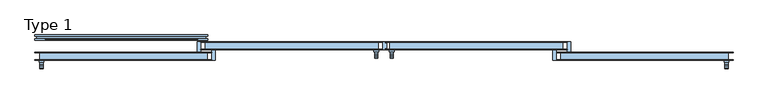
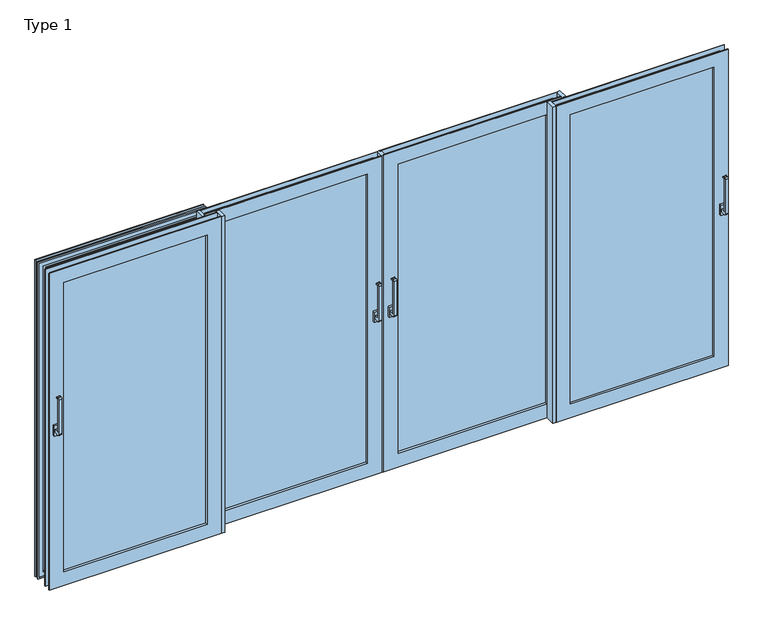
"""IFC4 building model written with IfcOpenShell, lengths in millimetres: window geometry, ETEM_E50_Quadruple_Fly Screen_Lift_Sliding_FR : Type 1."""

from ifc_helpers import new_model, si_unit, point, frame, frame_2d, origin, place, context, project, spatial, polyline, circle_curve, ellipse_curve, trimmed, segment, composite_curve, outline, extrude, faceted_brep, source, transform, mapped, element, save
from ifc_brep_helpers import plane_surface, cylinder_surface, revolved_surface, advanced_brep


def type_1_6a38bbea(model_context):
    return source(origin(), model_context, "Body", "SolidModel", [
        extrude(outline(composite_curve([segment(polyline([(-70.6518056, 1090.0), (-102.2254904, 1090.0)]), True, "CONTINUOUS"), segment(trimmed(circle_curve(frame_2d((-102.2254904, 1098.4263152)), 8.4263152), [point((-102.2254904, 1090.0))], [point((-110.6518056, 1098.4263152))], False, "CARTESIAN"), True, "CONTINUOUS"), segment(polyline([(-110.6518056, 1098.4263152), (-110.6518056, 1331.5736848)]), True, "CONTINUOUS"), segment(trimmed(circle_curve(frame_2d((-102.2254904, 1331.5736848)), 8.4263152), [point((-110.6518056, 1331.5736848))], [point((-102.2254904, 1340.0))], False, "CARTESIAN"), True, "CONTINUOUS"), segment(polyline([(-102.2254904, 1340.0), (-90.6518056, 1340.0)]), True, "CONTINUOUS"), segment(trimmed(circle_curve(frame_2d((-90.6518056, 1335.0)), 5.0), [point((-90.6518056, 1340.0))], [point((-90.6518056, 1330.0))], False, "CARTESIAN"), True, "CONTINUOUS"), segment(polyline([(-90.6518056, 1330.0), (-97.1162717, 1330.0)]), True, "CONTINUOUS"), segment(trimmed(circle_curve(frame_2d((-97.1162717, 1326.4644661)), 3.5355339), [point((-97.1162717, 1330.0))], [point((-100.6518056, 1326.4644661))], True, "CARTESIAN"), True, "CONTINUOUS"), segment(polyline([(-100.6518056, 1326.4644661), (-100.6518056, 1113.5355339)]), True, "CONTINUOUS"), segment(trimmed(circle_curve(frame_2d((-97.1162717, 1113.5355339)), 3.5355339), [point((-100.6518056, 1113.5355339))], [point((-97.1162717, 1110.0))], True, "CARTESIAN"), True, "CONTINUOUS"), segment(polyline([(-97.1162717, 1110.0), (-70.6518056, 1110.0), (-70.6518056, 1090.0)]), True, "CONTINUOUS")], self_intersect=False)), frame((2109.999965, 0.0, 0.0), z_axis=(1.0, 0.0, 0.0), x_axis=(0.0, 1.0, 0.0)), (0.0, 0.0, 1.0), 20.0),
        extrude(outline(polyline([(2104.999965, -70.6518056), (2104.999965, -57.6518056), (2134.999965, -57.6518056), (2134.999965, -70.6518056), (2104.999965, -70.6518056)])), frame((0.0, 0.0, 1065.0), z_axis=(0.0, 0.0, 1.0), x_axis=(1.0, 0.0, 0.0)), (0.0, 0.0, 1.0), 70.0),
        extrude(outline(composite_curve([segment(polyline([(-70.6518056, 1090.0), (-102.2254904, 1090.0)]), True, "CONTINUOUS"), segment(trimmed(circle_curve(frame_2d((-102.2254904, 1098.4263152)), 8.4263152), [point((-102.2254904, 1090.0))], [point((-110.6518056, 1098.4263152))], False, "CARTESIAN"), True, "CONTINUOUS"), segment(polyline([(-110.6518056, 1098.4263152), (-110.6518056, 1331.5736848)]), True, "CONTINUOUS"), segment(trimmed(circle_curve(frame_2d((-102.2254904, 1331.5736848)), 8.4263152), [point((-110.6518056, 1331.5736848))], [point((-102.2254904, 1340.0))], False, "CARTESIAN"), True, "CONTINUOUS"), segment(polyline([(-102.2254904, 1340.0), (-90.6518056, 1340.0)]), True, "CONTINUOUS"), segment(trimmed(circle_curve(frame_2d((-90.6518056, 1335.0)), 5.0), [point((-90.6518056, 1340.0))], [point((-90.6518056, 1330.0))], False, "CARTESIAN"), True, "CONTINUOUS"), segment(polyline([(-90.6518056, 1330.0), (-97.1162717, 1330.0)]), True, "CONTINUOUS"), segment(trimmed(circle_curve(frame_2d((-97.1162717, 1326.4644661)), 3.5355339), [point((-97.1162717, 1330.0))], [point((-100.6518056, 1326.4644661))], True, "CARTESIAN"), True, "CONTINUOUS"), segment(polyline([(-100.6518056, 1326.4644661), (-100.6518056, 1113.5355339)]), True, "CONTINUOUS"), segment(trimmed(circle_curve(frame_2d((-97.1162717, 1113.5355339)), 3.5355339), [point((-100.6518056, 1113.5355339))], [point((-97.1162717, 1110.0))], True, "CARTESIAN"), True, "CONTINUOUS"), segment(polyline([(-97.1162717, 1110.0), (-70.6518056, 1110.0), (-70.6518056, 1090.0)]), True, "CONTINUOUS")], self_intersect=False)), frame((-2129.999965, 0.0, 0.0), z_axis=(1.0, 0.0, 0.0), x_axis=(0.0, 1.0, 0.0)), (0.0, 0.0, 1.0), 20.0),
        extrude(outline(polyline([(-2134.999965, -70.6518056), (-2134.999965, -57.6518056), (-2104.999965, -57.6518056), (-2104.999965, -70.6518056), (-2134.999965, -70.6518056)])), frame((0.0, 0.0, 1065.0), z_axis=(0.0, 0.0, 1.0), x_axis=(1.0, 0.0, 0.0)), (0.0, 0.0, 1.0), 70.0),
        extrude(outline(composite_curve([segment(polyline([(-5.6518056, 1090.0), (-37.2254904, 1090.0)]), True, "CONTINUOUS"), segment(trimmed(circle_curve(frame_2d((-37.2254904, 1098.4263152)), 8.4263152), [point((-37.2254904, 1090.0))], [point((-45.6518056, 1098.4263152))], False, "CARTESIAN"), True, "CONTINUOUS"), segment(polyline([(-45.6518056, 1098.4263152), (-45.6518056, 1331.5736848)]), True, "CONTINUOUS"), segment(trimmed(circle_curve(frame_2d((-37.2254904, 1331.5736848)), 8.4263152), [point((-45.6518056, 1331.5736848))], [point((-37.2254904, 1340.0))], False, "CARTESIAN"), True, "CONTINUOUS"), segment(polyline([(-37.2254904, 1340.0), (-25.6518056, 1340.0)]), True, "CONTINUOUS"), segment(trimmed(circle_curve(frame_2d((-25.6518056, 1335.0)), 5.0), [point((-25.6518056, 1340.0))], [point((-25.6518056, 1330.0))], False, "CARTESIAN"), True, "CONTINUOUS"), segment(polyline([(-25.6518056, 1330.0), (-32.1162717, 1330.0)]), True, "CONTINUOUS"), segment(trimmed(circle_curve(frame_2d((-32.1162717, 1326.4644661)), 3.5355339), [point((-32.1162717, 1330.0))], [point((-35.6518056, 1326.4644661))], True, "CARTESIAN"), True, "CONTINUOUS"), segment(polyline([(-35.6518056, 1326.4644661), (-35.6518056, 1113.5355339)]), True, "CONTINUOUS"), segment(trimmed(circle_curve(frame_2d((-32.1162717, 1113.5355339)), 3.5355339), [point((-35.6518056, 1113.5355339))], [point((-32.1162717, 1110.0))], True, "CARTESIAN"), True, "CONTINUOUS"), segment(polyline([(-32.1162717, 1110.0), (-5.6518056, 1110.0), (-5.6518056, 1090.0)]), True, "CONTINUOUS")], self_intersect=False)), frame((-57.5, 0.0, 0.0), z_axis=(1.0, 0.0, 0.0), x_axis=(0.0, 1.0, 0.0)), (0.0, 0.0, 1.0), 20.0),
        extrude(outline(polyline([(-62.5, -5.6518056), (-62.5, 7.3481944), (-32.5, 7.3481944), (-32.5, -5.6518056), (-62.5, -5.6518056)])), frame((0.0, 0.0, 1065.0), z_axis=(0.0, 0.0, 1.0), x_axis=(1.0, 0.0, 0.0)), (0.0, 0.0, 1.0), 70.0),
        extrude(outline(composite_curve([segment(polyline([(-5.6518056, 1090.0), (-37.2254904, 1090.0)]), True, "CONTINUOUS"), segment(trimmed(circle_curve(frame_2d((-37.2254904, 1098.4263152)), 8.4263152), [point((-37.2254904, 1090.0))], [point((-45.6518056, 1098.4263152))], False, "CARTESIAN"), True, "CONTINUOUS"), segment(polyline([(-45.6518056, 1098.4263152), (-45.6518056, 1331.5736848)]), True, "CONTINUOUS"), segment(trimmed(circle_curve(frame_2d((-37.2254904, 1331.5736848)), 8.4263152), [point((-45.6518056, 1331.5736848))], [point((-37.2254904, 1340.0))], False, "CARTESIAN"), True, "CONTINUOUS"), segment(polyline([(-37.2254904, 1340.0), (-25.6518056, 1340.0)]), True, "CONTINUOUS"), segment(trimmed(circle_curve(frame_2d((-25.6518056, 1335.0)), 5.0), [point((-25.6518056, 1340.0))], [point((-25.6518056, 1330.0))], False, "CARTESIAN"), True, "CONTINUOUS"), segment(polyline([(-25.6518056, 1330.0), (-32.1162717, 1330.0)]), True, "CONTINUOUS"), segment(trimmed(circle_curve(frame_2d((-32.1162717, 1326.4644661)), 3.5355339), [point((-32.1162717, 1330.0))], [point((-35.6518056, 1326.4644661))], True, "CARTESIAN"), True, "CONTINUOUS"), segment(polyline([(-35.6518056, 1326.4644661), (-35.6518056, 1113.5355339)]), True, "CONTINUOUS"), segment(trimmed(circle_curve(frame_2d((-32.1162717, 1113.5355339)), 3.5355339), [point((-35.6518056, 1113.5355339))], [point((-32.1162717, 1110.0))], True, "CARTESIAN"), True, "CONTINUOUS"), segment(polyline([(-32.1162717, 1110.0), (-5.6518056, 1110.0), (-5.6518056, 1090.0)]), True, "CONTINUOUS")], self_intersect=False)), frame((37.5, 0.0, 0.0), z_axis=(1.0, 0.0, 0.0), x_axis=(0.0, 1.0, 0.0)), (0.0, 0.0, 1.0), 20.0),
        extrude(outline(polyline([(62.5, -5.6518056), (32.5, -5.6518056), (32.5, 7.3481944), (62.5, 7.3481944), (62.5, -5.6518056)])), frame((0.0, 0.0, 1065.0), z_axis=(0.0, 0.0, 1.0), x_axis=(1.0, 0.0, 0.0)), (0.0, 0.0, 1.0), 70.0),
        faceted_brep([(1135.5, 57.3481944, 2160.5), (1135.5, 52.6481944, 2160.5), (1135.5, 52.6481944, 29.970192), (1135.5, 57.3481944, 29.970192), (7.0, 52.6481944, 2160.5), (7.0, 52.6481944, 29.970192), (1106.3, 52.6481944, 59.170192), (36.2, 52.6481944, 59.170192), (36.2, 52.6481944, 2131.3), (1106.3, 52.6481944, 2131.3), (7.0, 57.3481944, 29.970192), (7.0, 57.3481944, 2160.5), (1044.0, 57.3481944, 2069.0), (98.5, 57.3481944, 2069.0), (98.5, 57.3481944, 121.470192), (1044.0, 57.3481944, 121.470192), (1044.0, 7.3481944, 2069.0), (1044.0, 7.3481944, 121.470192), (98.5, 7.3481944, 121.470192), (1135.5, 7.3481944, 2160.5), (7.0, 7.3481944, 2160.5), (7.0, 7.3481944, 29.970192), (1135.5, 7.3481944, 29.970192), (98.5, 7.3481944, 2069.0), (1135.5, 12.0481944, 2160.5), (1135.5, 12.0481944, 29.970192), (7.0, 12.0481944, 29.970192), (7.0, 12.0481944, 2160.5), (1106.3, 12.0481944, 2131.3), (36.2, 12.0481944, 2131.3), (36.2, 12.0481944, 59.170192), (1106.3, 12.0481944, 59.170192)], [[[0, 1, 2, 3]], [[1, 4, 5, 2], [6, 7, 8, 9]], [[3, 2, 5, 10]], [[3, 10, 11, 0], [12, 13, 14, 15]], [[16, 12, 15, 17]], [[17, 15, 14, 18]], [[19, 20, 21, 22], [17, 18, 23, 16]], [[24, 19, 22, 25]], [[25, 22, 21, 26]], [[25, 26, 27, 24], [28, 29, 30, 31]], [[9, 28, 31, 6]], [[6, 31, 30, 7]], [[10, 5, 4, 11]], [[18, 14, 13, 23]], [[26, 21, 20, 27]], [[7, 30, 29, 8]], [[11, 4, 1, 0]], [[23, 13, 12, 16]], [[27, 20, 19, 24]], [[8, 29, 28, 9]]]),
        extrude(outline(polyline([(1156.0, -3.6518056), (1135.5, -3.6518056), (1135.5, 57.3481944), (1156.0, 57.3481944), (1156.0, -3.6518056)])), frame((0.0, 0.0, 29.970192), z_axis=(0.0, 0.0, 1.0), x_axis=(1.0, 0.0, 0.0)), (0.0, 0.0, 1.0), 2130.529808),
        extrude(outline(polyline([(1044.0, 3.3481944), (1064.5, 3.3481944), (1064.5, -57.6518056), (1044.0, -57.6518056), (1044.0, 3.3481944)])), frame((0.0, 0.0, 29.970192), z_axis=(0.0, 0.0, 1.0), x_axis=(1.0, 0.0, 0.0)), (0.0, 0.0, 1.0), 2130.529808),
        extrude(outline(polyline([(98.5, 49.3481944), (1044.0, 49.3481944), (1044.0, 44.3481944), (98.5, 44.3481944), (98.5, 49.3481944)])), frame((0.0, 0.0, 121.470192), z_axis=(0.0, 0.0, 1.0), x_axis=(1.0, 0.0, 0.0)), (0.0, 0.0, 1.0), 1947.529808),
        extrude(outline(polyline([(1156.0, -15.6518056), (2068.999965, -15.6518056), (2068.999965, -20.6518056), (1156.0, -20.6518056), (1156.0, -15.6518056)])), frame((0.0, 0.0, 121.470192), z_axis=(0.0, 0.0, 1.0), x_axis=(1.0, 0.0, 0.0)), (0.0, 0.0, 1.0), 1947.529808),
        extrude(outline(polyline([(98.5, 28.3481944), (1044.0, 28.3481944), (1044.0, 23.3481944), (98.5, 23.3481944), (98.5, 28.3481944)])), frame((0.0, 0.0, 121.470192), z_axis=(0.0, 0.0, 1.0), x_axis=(1.0, 0.0, 0.0)), (0.0, 0.0, 1.0), 1947.529808),
        extrude(outline(polyline([(1156.0, -36.6518056), (2068.999965, -36.6518056), (2068.999965, -41.6518056), (1156.0, -41.6518056), (1156.0, -36.6518056)])), frame((0.0, 0.0, 121.470192), z_axis=(0.0, 0.0, 1.0), x_axis=(1.0, 0.0, 0.0)), (0.0, 0.0, 1.0), 1947.529808),
        faceted_brep([(-7.0, 12.0481944, 2160.5), (-7.0, 7.3481944, 2160.5), (-7.0, 7.3481944, 29.970192), (-7.0, 12.0481944, 29.970192), (-1135.5, 7.3481944, 2160.5), (-1135.5, 7.3481944, 29.970192), (-98.5, 7.3481944, 121.470192), (-1044.0, 7.3481944, 121.470192), (-1044.0, 7.3481944, 2069.0), (-98.5, 7.3481944, 2069.0), (-1135.5, 12.0481944, 29.970192), (-1135.5, 12.0481944, 2160.5), (-36.2, 12.0481944, 2131.3), (-1106.3, 12.0481944, 2131.3), (-1106.3, 12.0481944, 59.170192), (-36.2, 12.0481944, 59.170192), (-36.2, 52.6481944, 2131.3), (-36.2, 52.6481944, 59.170192), (-1106.3, 52.6481944, 59.170192), (-7.0, 52.6481944, 2160.5), (-1135.5, 52.6481944, 2160.5), (-1135.5, 52.6481944, 29.970192), (-7.0, 52.6481944, 29.970192), (-1106.3, 52.6481944, 2131.3), (-7.0, 57.3481944, 2160.5), (-7.0, 57.3481944, 29.970192), (-1135.5, 57.3481944, 29.970192), (-1135.5, 57.3481944, 2160.5), (-98.5, 57.3481944, 2069.0), (-1044.0, 57.3481944, 2069.0), (-1044.0, 57.3481944, 121.470192), (-98.5, 57.3481944, 121.470192)], [[[0, 1, 2, 3]], [[1, 4, 5, 2], [6, 7, 8, 9]], [[3, 2, 5, 10]], [[3, 10, 11, 0], [12, 13, 14, 15]], [[16, 12, 15, 17]], [[17, 15, 14, 18]], [[19, 20, 21, 22], [17, 18, 23, 16]], [[24, 19, 22, 25]], [[25, 22, 21, 26]], [[25, 26, 27, 24], [28, 29, 30, 31]], [[9, 28, 31, 6]], [[6, 31, 30, 7]], [[10, 5, 4, 11]], [[18, 14, 13, 23]], [[26, 21, 20, 27]], [[7, 30, 29, 8]], [[11, 4, 1, 0]], [[23, 13, 12, 16]], [[27, 20, 19, 24]], [[8, 29, 28, 9]]]),
        extrude(outline(polyline([(-1044.0, 49.3481944), (-98.5, 49.3481944), (-98.5, 44.3481944), (-1044.0, 44.3481944), (-1044.0, 49.3481944)])), frame((0.0, 0.0, 121.470192), z_axis=(0.0, 0.0, 1.0), x_axis=(1.0, 0.0, 0.0)), (0.0, 0.0, 1.0), 1947.529808),
        extrude(outline(polyline([(-1044.0, 28.3481944), (-98.5, 28.3481944), (-98.5, 23.3481944), (-1044.0, 23.3481944), (-1044.0, 28.3481944)])), frame((0.0, 0.0, 121.470192), z_axis=(0.0, 0.0, 1.0), x_axis=(1.0, 0.0, 0.0)), (0.0, 0.0, 1.0), 1947.529808),
        faceted_brep([(-1156.0, -57.6518056, 2069.0), (-1156.0, -7.6518056, 2069.0), (-1156.0, -7.6518056, 121.470192), (-1156.0, -57.6518056, 121.470192), (-2068.999965, -7.6518056, 121.470192), (-2068.999965, -57.6518056, 121.470192), (-2160.499965, -7.6518056, 29.970192), (-2160.499965, -7.6518056, 2160.5), (-1064.5, -7.6518056, 2160.5), (-1064.5, -7.6518056, 29.970192), (-2068.999965, -7.6518056, 2069.0), (-2068.999965, -57.6518056, 2069.0), (-1064.5, -57.6518056, 29.970192), (-1064.5, -57.6518056, 2160.5), (-2160.499965, -57.6518056, 2160.5), (-2160.499965, -57.6518056, 29.970192), (-1064.5, -52.9518056, 2160.5), (-1064.5, -52.9518056, 29.970192), (-2160.499965, -52.9518056, 29.970192), (-2160.499965, -52.9518056, 2160.5), (-1093.7, -52.9518056, 59.170192), (-1093.7, -52.9518056, 2131.3), (-2131.299965, -52.9518056, 2131.3), (-2131.299965, -52.9518056, 59.170192), (-1093.7, -12.3518056, 2131.3), (-1093.7, -12.3518056, 59.170192), (-2131.299965, -12.3518056, 59.170192), (-2131.299965, -12.3518056, 2131.3), (-1064.5, -12.3518056, 29.970192), (-1064.5, -12.3518056, 2160.5), (-2160.499965, -12.3518056, 2160.5), (-2160.499965, -12.3518056, 29.970192)], [[[0, 1, 2, 3]], [[3, 2, 4, 5]], [[6, 7, 8, 9], [2, 1, 10, 4]], [[5, 4, 10, 11]], [[12, 13, 14, 15], [5, 11, 0, 3]], [[16, 13, 12, 17]], [[17, 12, 15, 18]], [[18, 15, 14, 19]], [[18, 19, 16, 17], [20, 21, 22, 23]], [[24, 21, 20, 25]], [[25, 20, 23, 26]], [[26, 23, 22, 27]], [[28, 29, 30, 31], [26, 27, 24, 25]], [[8, 29, 28, 9]], [[9, 28, 31, 6]], [[6, 31, 30, 7]], [[11, 10, 1, 0]], [[19, 14, 13, 16]], [[27, 22, 21, 24]], [[7, 30, 29, 8]]]),
        extrude(outline(polyline([(-1044.0, 3.3481944), (-1044.0, -57.6518056), (-1064.5, -57.6518056), (-1064.5, 3.3481944), (-1044.0, 3.3481944)])), frame((0.0, 0.0, 29.970192), z_axis=(0.0, 0.0, 1.0), x_axis=(1.0, 0.0, 0.0)), (0.0, 0.0, 1.0), 2130.529808),
        extrude(outline(polyline([(-1156.0, -3.6518056), (-1156.0, 57.3481944), (-1135.5, 57.3481944), (-1135.5, -3.6518056), (-1156.0, -3.6518056)])), frame((0.0, 0.0, 29.970192), z_axis=(0.0, 0.0, 1.0), x_axis=(1.0, 0.0, 0.0)), (0.0, 0.0, 1.0), 2130.529808),
        extrude(outline(polyline([(-2068.999965, -15.6518056), (-1156.0, -15.6518056), (-1156.0, -20.6518056), (-2068.999965, -20.6518056), (-2068.999965, -15.6518056)])), frame((0.0, 0.0, 121.470192), z_axis=(0.0, 0.0, 1.0), x_axis=(1.0, 0.0, 0.0)), (0.0, 0.0, 1.0), 1947.529808),
        extrude(outline(polyline([(-2068.999965, -36.6518056), (-1156.0, -36.6518056), (-1156.0, -41.6518056), (-2068.999965, -41.6518056), (-2068.999965, -36.6518056)])), frame((0.0, 0.0, 121.470192), z_axis=(0.0, 0.0, 1.0), x_axis=(1.0, 0.0, 0.0)), (0.0, 0.0, 1.0), 1947.529808),
        extrude(outline(polyline([(3.5, 16.3481944), (3.5, 7.3481944), (-7.0, 7.3481944), (-7.0, 57.3481944), (3.5, 57.3481944), (3.5, 48.3481944), (16.0497482, 48.3481944), (16.0497482, 16.3481944), (3.5, 16.3481944)])), frame((0.0, 0.0, 29.9890213), z_axis=(0.0, 0.0, 1.0), x_axis=(1.0, 0.0, 0.0)), (0.0, 0.0, 1.0), 2130.4921495),
        faceted_brep([(2068.999965, -57.6518056, 2069.0), (2068.999965, -7.6518056, 2069.0), (2068.999965, -7.6518056, 121.470192), (2068.999965, -57.6518056, 121.470192), (1156.0, -7.6518056, 121.470192), (1156.0, -57.6518056, 121.470192), (1064.5, -7.6518056, 29.970192), (1064.5, -7.6518056, 2160.5), (2160.499965, -7.6518056, 2160.5), (2160.499965, -7.6518056, 29.970192), (1156.0, -7.6518056, 2069.0), (1156.0, -57.6518056, 2069.0), (2160.499965, -57.6518056, 29.970192), (2160.499965, -57.6518056, 2160.5), (1064.5, -57.6518056, 2160.5), (1064.5, -57.6518056, 29.970192), (2160.499965, -52.9518056, 2160.5), (2160.499965, -52.9518056, 29.970192), (1064.5, -52.9518056, 29.970192), (1064.5, -52.9518056, 2160.5), (2131.299965, -52.9518056, 59.170192), (2131.299965, -52.9518056, 2131.3), (1093.7, -52.9518056, 2131.3), (1093.7, -52.9518056, 59.170192), (2131.299965, -12.3518056, 2131.3), (2131.299965, -12.3518056, 59.170192), (1093.7, -12.3518056, 59.170192), (1093.7, -12.3518056, 2131.3), (2160.499965, -12.3518056, 29.970192), (2160.499965, -12.3518056, 2160.5), (1064.5, -12.3518056, 2160.5), (1064.5, -12.3518056, 29.970192)], [[[0, 1, 2, 3]], [[3, 2, 4, 5]], [[6, 7, 8, 9], [2, 1, 10, 4]], [[5, 4, 10, 11]], [[12, 13, 14, 15], [5, 11, 0, 3]], [[16, 13, 12, 17]], [[17, 12, 15, 18]], [[18, 15, 14, 19]], [[18, 19, 16, 17], [20, 21, 22, 23]], [[24, 21, 20, 25]], [[25, 20, 23, 26]], [[26, 23, 22, 27]], [[28, 29, 30, 31], [26, 27, 24, 25]], [[8, 29, 28, 9]], [[9, 28, 31, 6]], [[6, 31, 30, 7]], [[11, 10, 1, 0]], [[19, 14, 13, 16]], [[27, 22, 21, 24]], [[7, 30, 29, 8]]]),
        extrude(outline(polyline([(-2099.499965, 72.3620462), (-1152.0, 72.3620462), (-1152.0, 71.3620462), (-2099.499965, 71.3620462), (-2099.499965, 72.3620462)])), frame((0.0, 0.0, 90.970192), z_axis=(0.0, 0.0, 1.0), x_axis=(1.0, 0.0, 0.0)), (0.0, 0.0, 1.0), 2008.529808),
        advanced_brep(
        [(-1154.2545455, 73.5595618, 2097.2454545), (-1154.2, 72.3620462, 2097.3), (-1154.2, 72.3620462, 93.170192), (-1154.2545455, 73.5595618, 93.2247374), (-2097.299965, 72.3620462, 2097.3), (-2097.299965, 72.3620462, 93.170192), (-1156.0, 72.3620462, 94.970192), (-2095.499965, 72.3620462, 94.970192), (-2095.499965, 72.3620462, 2095.5), (-1156.0, 72.3620462, 2095.5), (-2097.2454195, 73.5595618, 93.2247374), (-1154.8, 74.0574913, 2096.7), (-1154.8, 74.0574913, 93.770192), (-2096.699965, 74.0574913, 93.770192), (-1154.8, 78.8481944, 2096.7), (-1154.8, 78.8481944, 93.770192), (-2096.699965, 78.8481944, 93.770192), (-1148.6, 78.8481944, 2102.9), (-2102.899965, 78.8481944, 2102.9), (-2102.899965, 78.8481944, 87.570192), (-1148.6, 78.8481944, 87.570192), (-2096.699965, 78.8481944, 2096.7), (-1148.6, 68.5481944, 2102.9), (-1148.6, 68.5481944, 87.570192), (-2102.899965, 68.5481944, 87.570192), (-1146.6, 68.5481944, 2104.9), (-2104.899965, 68.5481944, 2104.9), (-2104.899965, 68.5481944, 85.570192), (-1146.6, 68.5481944, 85.570192), (-2102.899965, 68.5481944, 2102.9), (-1146.6545455, 69.7457099, 2104.8454545), (-1146.6545455, 69.7457099, 85.6247374), (-2104.8454195, 69.7457099, 85.6247374), (-1147.2, 70.2436394, 2104.3), (-1147.2, 70.2436394, 86.170192), (-2104.299965, 70.2436394, 86.170192), (-1147.2, 76.3481944, 2104.3), (-1147.2, 76.3481944, 86.170192), (-2104.299965, 76.3481944, 86.170192), (-1126.7, 76.3481944, 2124.8), (-2124.799965, 76.3481944, 2124.8), (-2124.799965, 76.3481944, 65.670192), (-1126.7, 76.3481944, 65.670192), (-2104.299965, 76.3481944, 2104.3), (-1126.7, 67.3481944, 2124.8), (-1126.7, 67.3481944, 65.670192), (-2124.799965, 67.3481944, 65.670192), (-1100.5050126, 67.3481944, 2150.9949874), (-2150.9949524, 67.3481944, 2150.9949874), (-2150.9949524, 67.3481944, 39.4752045), (-1100.5050126, 67.3481944, 39.4752045), (-2124.799965, 67.3481944, 2124.8), (-1100.5050126, 65.5481944, 2150.9949874), (-1100.5050126, 65.5481944, 39.4752045), (-2150.9949524, 65.5481944, 39.4752045), (-1091.0, 65.5481944, 2160.5), (-2160.499965, 65.5481944, 2160.5), (-2160.499965, 65.5481944, 29.970192), (-1091.0, 65.5481944, 29.970192), (-2150.9949524, 65.5481944, 2150.9949874), (-1091.0, 74.5481944, 2160.5), (-1091.0, 74.5481944, 29.970192), (-2160.499965, 74.5481944, 29.970192), (-2160.499965, 74.5481944, 2160.5), (-1103.2, 74.5481944, 2148.3), (-2148.299965, 74.5481944, 2148.3), (-2148.299965, 74.5481944, 42.170192), (-1103.2, 74.5481944, 42.170192), (-1103.2, 92.1481944, 2148.3), (-1103.2, 92.1481944, 42.170192), (-2148.299965, 92.1481944, 42.170192), (-1091.0, 92.1481944, 2160.5), (-2160.499965, 92.1481944, 2160.5), (-2160.499965, 92.1481944, 29.970192), (-1091.0, 92.1481944, 29.970192), (-2148.299965, 92.1481944, 2148.3), (-1091.0, 99.3481944, 2160.5), (-1091.0, 99.3481944, 29.970192), (-2160.499965, 99.3481944, 29.970192), (-2160.499965, 99.3481944, 2160.5), (-1126.7, 99.3481944, 2124.8), (-2124.799965, 99.3481944, 2124.8), (-2124.799965, 99.3481944, 65.670192), (-1126.7, 99.3481944, 65.670192), (-1126.7, 90.1481944, 2124.8), (-1126.7, 90.1481944, 65.670192), (-2124.799965, 90.1481944, 65.670192), (-2124.799965, 90.1481944, 2124.8), (-1143.5, 90.1481944, 2108.0), (-2107.999965, 90.1481944, 2108.0), (-2107.999965, 90.1481944, 82.470192), (-1143.5, 90.1481944, 82.470192), (-1143.5, 99.3481944, 2108.0), (-1143.5, 99.3481944, 82.470192), (-2107.999965, 99.3481944, 82.470192), (-2107.999965, 99.3481944, 2108.0), (-1156.0, 99.3481944, 2095.5), (-2095.499965, 99.3481944, 2095.5), (-2095.499965, 99.3481944, 94.970192), (-1156.0, 99.3481944, 94.970192), (-2097.2454195, 73.5595618, 2097.2454545), (-2096.699965, 74.0574913, 2096.7), (-2104.8454195, 69.7457099, 2104.8454545), (-2104.299965, 70.2436394, 2104.3)],
        [
            (0, 1, ellipse_curve(frame((-1154.2, 72.9620462, 2097.3), z_axis=(0.7071067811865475, 0.0, -0.7071067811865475), x_axis=(0.7071067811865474, 0.0, 0.7071067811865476)), 0.8485281, 0.6)),
            (1, 2),
            (2, 3, ellipse_curve(frame((-1154.2, 72.9620462, 93.170192), z_axis=(0.7071067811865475, 0.0, 0.7071067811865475), x_axis=(-0.7071067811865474, 0.0, 0.7071067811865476)), 0.8485281, 0.6)),
            (3, 0),
            (1, 4),
            (4, 5),
            (5, 2),
            (6, 7),
            (7, 8),
            (8, 9),
            (9, 6),
            (5, 10, ellipse_curve(frame((-2097.299965, 72.9620462, 93.170192), z_axis=(0.7071067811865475, 0.0, -0.7071067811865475), x_axis=(0.7071067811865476, 0.0, 0.7071067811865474)), 0.8485281, 0.6)),
            (10, 3),
            (11, 0, ellipse_curve(frame((-1154.3, 74.0574913, 2097.2), z_axis=(-0.7071067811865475, 0.0, 0.7071067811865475), x_axis=(-0.7071067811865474, 0.0, -0.7071067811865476)), 0.7071068, 0.5)),
            (3, 12, ellipse_curve(frame((-1154.3, 74.0574913, 93.270192), z_axis=(-0.7071067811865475, 0.0, -0.7071067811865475), x_axis=(0.7071067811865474, 0.0, -0.7071067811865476)), 0.7071068, 0.5)),
            (12, 11),
            (10, 13, ellipse_curve(frame((-2097.199965, 74.0574913, 93.270192), z_axis=(-0.7071067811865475, 0.0, 0.7071067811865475), x_axis=(-0.7071067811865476, 0.0, -0.7071067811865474)), 0.7071068, 0.5)),
            (13, 12),
            (14, 11),
            (12, 15),
            (15, 14),
            (13, 16),
            (16, 15),
            (17, 18),
            (18, 19),
            (19, 20),
            (20, 17),
            (16, 21),
            (21, 14),
            (22, 17),
            (20, 23),
            (23, 22),
            (19, 24),
            (24, 23),
            (25, 26),
            (26, 27),
            (27, 28),
            (28, 25),
            (24, 29),
            (29, 22),
            (30, 25, ellipse_curve(frame((-1146.6, 69.1481944, 2104.9), z_axis=(0.7071067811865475, 0.0, -0.7071067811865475), x_axis=(0.7071067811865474, 0.0, 0.7071067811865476)), 0.8485281, 0.6)),
            (28, 31, ellipse_curve(frame((-1146.6, 69.1481944, 85.570192), z_axis=(0.7071067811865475, 0.0, 0.7071067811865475), x_axis=(-0.7071067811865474, 0.0, 0.7071067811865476)), 0.8485281, 0.6)),
            (31, 30),
            (27, 32, ellipse_curve(frame((-2104.899965, 69.1481944, 85.570192), z_axis=(0.7071067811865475, 0.0, -0.7071067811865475), x_axis=(0.7071067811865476, 0.0, 0.7071067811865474)), 0.8485281, 0.6)),
            (32, 31),
            (33, 30, ellipse_curve(frame((-1146.7, 70.2436394, 2104.8), z_axis=(-0.7071067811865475, 0.0, 0.7071067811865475), x_axis=(-0.7071067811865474, 0.0, -0.7071067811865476)), 0.7071068, 0.5)),
            (31, 34, ellipse_curve(frame((-1146.7, 70.2436394, 85.670192), z_axis=(-0.7071067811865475, 0.0, -0.7071067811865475), x_axis=(0.7071067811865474, 0.0, -0.7071067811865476)), 0.7071068, 0.5)),
            (34, 33),
            (32, 35, ellipse_curve(frame((-2104.799965, 70.2436394, 85.670192), z_axis=(-0.7071067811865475, 0.0, 0.7071067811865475), x_axis=(-0.7071067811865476, 0.0, -0.7071067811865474)), 0.7071068, 0.5)),
            (35, 34),
            (36, 33),
            (34, 37),
            (37, 36),
            (35, 38),
            (38, 37),
            (39, 40),
            (40, 41),
            (41, 42),
            (42, 39),
            (38, 43),
            (43, 36),
            (44, 39),
            (42, 45),
            (45, 44),
            (41, 46),
            (46, 45),
            (47, 48),
            (48, 49),
            (49, 50),
            (50, 47),
            (46, 51),
            (51, 44),
            (52, 47),
            (50, 53),
            (53, 52),
            (49, 54),
            (54, 53),
            (55, 56),
            (56, 57),
            (57, 58),
            (58, 55),
            (54, 59),
            (59, 52),
            (60, 55),
            (58, 61),
            (61, 60),
            (57, 62),
            (62, 61),
            (62, 63),
            (63, 60),
            (64, 65),
            (65, 66),
            (66, 67),
            (67, 64),
            (68, 64),
            (67, 69),
            (69, 68),
            (66, 70),
            (70, 69),
            (71, 72),
            (72, 73),
            (73, 74),
            (74, 71),
            (70, 75),
            (75, 68),
            (76, 71),
            (74, 77),
            (77, 76),
            (73, 78),
            (78, 77),
            (78, 79),
            (79, 76),
            (80, 81),
            (81, 82),
            (82, 83),
            (83, 80),
            (84, 80),
            (83, 85),
            (85, 84),
            (82, 86),
            (86, 85),
            (86, 87),
            (87, 84),
            (88, 89),
            (89, 90),
            (90, 91),
            (91, 88),
            (92, 88),
            (91, 93),
            (93, 92),
            (90, 94),
            (94, 93),
            (94, 95),
            (95, 92),
            (96, 97),
            (97, 98),
            (98, 99),
            (99, 96),
            (9, 96),
            (99, 6),
            (98, 7),
            (4, 100, ellipse_curve(frame((-2097.299965, 72.9620462, 2097.3), z_axis=(-0.7071067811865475, 0.0, -0.7071067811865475), x_axis=(0.7071067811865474, 0.0, -0.7071067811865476)), 0.8485281, 0.6)),
            (100, 10),
            (100, 101, ellipse_curve(frame((-2097.199965, 74.0574913, 2097.2), z_axis=(0.7071067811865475, 0.0, 0.7071067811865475), x_axis=(-0.7071067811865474, 0.0, 0.7071067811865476)), 0.7071068, 0.5)),
            (101, 13),
            (101, 21),
            (18, 29),
            (26, 102, ellipse_curve(frame((-2104.899965, 69.1481944, 2104.9), z_axis=(-0.7071067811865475, 0.0, -0.7071067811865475), x_axis=(0.7071067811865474, 0.0, -0.7071067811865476)), 0.8485281, 0.6)),
            (102, 32),
            (102, 103, ellipse_curve(frame((-2104.799965, 70.2436394, 2104.8), z_axis=(0.7071067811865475, 0.0, 0.7071067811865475), x_axis=(-0.7071067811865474, 0.0, 0.7071067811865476)), 0.7071068, 0.5)),
            (103, 35),
            (103, 43),
            (40, 51),
            (48, 59),
            (56, 63),
            (65, 75),
            (72, 79),
            (81, 87),
            (89, 95),
            (97, 8),
            (0, 100),
            (11, 101),
            (30, 102),
            (33, 103),
        ],
        [
            cylinder_surface(frame((-1154.2, 72.9620462, 2160.5), z_axis=(0.0, 0.0, 1.0), x_axis=(-1.0, 0.0, 0.0)), 0.6),
            plane_surface(frame((-2095.499965, 72.3620462, 2095.5), z_axis=(0.0, -1.0, 0.0), x_axis=(1.0, 0.0, 0.0))),
            cylinder_surface(frame((-1091.0, 72.9620462, 93.170192), z_axis=(1.0, 0.0, 0.0), x_axis=(0.0, 0.0, 1.0)), 0.6),
            revolved_surface(polyline([(-1154.8, 74.0574913, 92.77019198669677), (-1154.8, 74.0574913, 2097.700000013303)]), (-1154.3, 74.0574913, 2160.5), (0.0, 0.0, -1.0)),
            revolved_surface(polyline([(-2097.699965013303, 74.0574913, 93.770192), (-1153.7999999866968, 74.0574913, 93.770192)]), (-1091.0, 74.0574913, 93.270192), (-1.0, 0.0, 0.0)),
            plane_surface(frame((-1154.8, 74.0574913, 2096.7), z_axis=(1.0, 0.0, 0.0), x_axis=(0.0, 0.0, -1.0))),
            plane_surface(frame((-1154.8, 74.0574913, 93.770192), z_axis=(0.0, 0.0, -1.0), x_axis=(-1.0, 0.0, 0.0))),
            plane_surface(frame((-2096.699965, 78.8481944, 2096.7), z_axis=(0.0, -1.0, 0.0), x_axis=(1.0, 0.0, 0.0))),
            plane_surface(frame((-1148.6, 78.8481944, 2102.9), z_axis=(-1.0, 0.0, 0.0), x_axis=(0.0, 0.0, -1.0))),
            plane_surface(frame((-1148.6, 78.8481944, 87.570192), z_axis=(0.0, 0.0, 1.0), x_axis=(-1.0, 0.0, 0.0))),
            plane_surface(frame((-2102.899965, 68.5481944, 2102.9), z_axis=(0.0, -1.0, 0.0), x_axis=(1.0, 0.0, 0.0))),
            cylinder_surface(frame((-1146.6, 69.1481944, 2160.5), z_axis=(0.0, 0.0, 1.0), x_axis=(-1.0, 0.0, 0.0)), 0.6),
            cylinder_surface(frame((-1091.0, 69.1481944, 85.570192), z_axis=(1.0, 0.0, 0.0), x_axis=(0.0, 0.0, 1.0)), 0.6),
            revolved_surface(polyline([(-1147.2, 70.2436394, 85.17019198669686), (-1147.2, 70.2436394, 2105.3000000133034)]), (-1146.7, 70.2436394, 2160.5), (0.0, 0.0, -1.0)),
            revolved_surface(polyline([(-2105.2999650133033, 70.2436394, 86.170192), (-1146.1999999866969, 70.2436394, 86.170192)]), (-1091.0, 70.2436394, 85.670192), (-1.0, 0.0, 0.0)),
            plane_surface(frame((-1147.2, 70.2436394, 2104.3), z_axis=(1.0, 0.0, 0.0), x_axis=(0.0, 0.0, -1.0))),
            plane_surface(frame((-1147.2, 70.2436394, 86.170192), z_axis=(0.0, 0.0, -1.0), x_axis=(-1.0, 0.0, 0.0))),
            plane_surface(frame((-2104.299965, 76.3481944, 2104.3), z_axis=(0.0, -1.0, 0.0), x_axis=(1.0, 0.0, 0.0))),
            plane_surface(frame((-1126.7, 76.3481944, 2124.8), z_axis=(-1.0, 0.0, 0.0), x_axis=(0.0, 0.0, -1.0))),
            plane_surface(frame((-1126.7, 76.3481944, 65.670192), z_axis=(0.0, 0.0, 1.0), x_axis=(-1.0, 0.0, 0.0))),
            plane_surface(frame((-2124.799965, 67.3481944, 2124.8), z_axis=(0.0, -1.0, 0.0), x_axis=(1.0, 0.0, 0.0))),
            plane_surface(frame((-1100.5050126, 67.3481944, 2150.9949874), z_axis=(-1.0, 0.0, 0.0), x_axis=(0.0, 0.0, -1.0))),
            plane_surface(frame((-1100.5050126, 67.3481944, 39.4752045), z_axis=(0.0, 0.0, 1.0), x_axis=(-1.0, 0.0, 0.0))),
            plane_surface(frame((-2150.9949524, 65.5481944, 2150.9949874), z_axis=(0.0, -1.0, 0.0), x_axis=(1.0, 0.0, 0.0))),
            plane_surface(frame((-1091.0, 65.5481944, 2160.5), z_axis=(1.0, 0.0, 0.0), x_axis=(0.0, 0.0, -1.0))),
            plane_surface(frame((-1091.0, 65.5481944, 29.970192), z_axis=(0.0, 0.0, -1.0), x_axis=(-1.0, 0.0, 0.0))),
            plane_surface(frame((-2160.499965, 74.5481944, 2160.5), z_axis=(0.0, 1.0, 0.0), x_axis=(1.0, 0.0, 0.0))),
            plane_surface(frame((-1103.2, 74.5481944, 2148.3), z_axis=(1.0, 0.0, 0.0), x_axis=(0.0, 0.0, -1.0))),
            plane_surface(frame((-1103.2, 74.5481944, 42.170192), z_axis=(0.0, 0.0, -1.0), x_axis=(-1.0, 0.0, 0.0))),
            plane_surface(frame((-2148.299965, 92.1481944, 2148.3), z_axis=(0.0, -1.0, 0.0), x_axis=(1.0, 0.0, 0.0))),
            plane_surface(frame((-1091.0, 92.1481944, 2160.5), z_axis=(1.0, 0.0, 0.0), x_axis=(0.0, 0.0, -1.0))),
            plane_surface(frame((-1091.0, 92.1481944, 29.970192), z_axis=(0.0, 0.0, -1.0), x_axis=(-1.0, 0.0, 0.0))),
            plane_surface(frame((-2160.499965, 99.3481944, 2160.5), z_axis=(0.0, 1.0, 0.0), x_axis=(1.0, 0.0, 0.0))),
            plane_surface(frame((-1126.7, 99.3481944, 2124.8), z_axis=(-1.0, 0.0, 0.0), x_axis=(0.0, 0.0, -1.0))),
            plane_surface(frame((-1126.7, 99.3481944, 65.670192), z_axis=(0.0, 0.0, 1.0), x_axis=(-1.0, 0.0, 0.0))),
            plane_surface(frame((-2124.799965, 90.1481944, 2124.8), z_axis=(0.0, 1.0, 0.0), x_axis=(1.0, 0.0, 0.0))),
            plane_surface(frame((-1143.5, 90.1481944, 2108.0), z_axis=(1.0, 0.0, 0.0), x_axis=(0.0, 0.0, -1.0))),
            plane_surface(frame((-1143.5, 90.1481944, 82.470192), z_axis=(0.0, 0.0, -1.0), x_axis=(-1.0, 0.0, 0.0))),
            plane_surface(frame((-2107.999965, 99.3481944, 2108.0), z_axis=(0.0, 1.0, 0.0), x_axis=(1.0, 0.0, 0.0))),
            plane_surface(frame((-1156.0, 99.3481944, 2095.5), z_axis=(-1.0, 0.0, 0.0), x_axis=(0.0, 0.0, -1.0))),
            plane_surface(frame((-1156.0, 99.3481944, 94.970192), z_axis=(0.0, 0.0, 1.0), x_axis=(-1.0, 0.0, 0.0))),
            cylinder_surface(frame((-2097.299965, 72.9620462, 29.970192), z_axis=(0.0, 0.0, -1.0), x_axis=(1.0, 0.0, 0.0)), 0.6),
            revolved_surface(polyline([(-2096.699965, 74.0574913, 2097.700000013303), (-2096.699965, 74.0574913, 92.77019198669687)]), (-2097.199965, 74.0574913, 29.970192), (0.0, 0.0, 1.0)),
            plane_surface(frame((-2096.699965, 74.0574913, 93.770192), z_axis=(-1.0, 0.0, 0.0), x_axis=(0.0, 0.0, 1.0))),
            plane_surface(frame((-2102.899965, 78.8481944, 87.570192), z_axis=(1.0, 0.0, 0.0), x_axis=(0.0, 0.0, 1.0))),
            cylinder_surface(frame((-2104.899965, 69.1481944, 29.970192), z_axis=(0.0, 0.0, -1.0), x_axis=(1.0, 0.0, 0.0)), 0.6),
            revolved_surface(polyline([(-2104.299965, 70.2436394, 2105.3000000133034), (-2104.299965, 70.2436394, 85.17019198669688)]), (-2104.799965, 70.2436394, 29.970192), (0.0, 0.0, 1.0)),
            plane_surface(frame((-2104.299965, 70.2436394, 86.170192), z_axis=(-1.0, 0.0, 0.0), x_axis=(0.0, 0.0, 1.0))),
            plane_surface(frame((-2124.799965, 76.3481944, 65.670192), z_axis=(1.0, 0.0, 0.0), x_axis=(0.0, 0.0, 1.0))),
            plane_surface(frame((-2150.9949524, 67.3481944, 39.4752045), z_axis=(1.0, 0.0, 0.0), x_axis=(0.0, 0.0, 1.0))),
            plane_surface(frame((-2160.499965, 65.5481944, 29.970192), z_axis=(-1.0, 0.0, 0.0), x_axis=(0.0, 0.0, 1.0))),
            plane_surface(frame((-2148.299965, 74.5481944, 42.170192), z_axis=(-1.0, 0.0, 0.0), x_axis=(0.0, 0.0, 1.0))),
            plane_surface(frame((-2160.499965, 92.1481944, 29.970192), z_axis=(-1.0, 0.0, 0.0), x_axis=(0.0, 0.0, 1.0))),
            plane_surface(frame((-2124.799965, 99.3481944, 65.670192), z_axis=(1.0, 0.0, 0.0), x_axis=(0.0, 0.0, 1.0))),
            plane_surface(frame((-2107.999965, 90.1481944, 82.470192), z_axis=(-1.0, 0.0, 0.0), x_axis=(0.0, 0.0, 1.0))),
            plane_surface(frame((-2095.499965, 99.3481944, 94.970192), z_axis=(1.0, 0.0, 0.0), x_axis=(0.0, 0.0, 1.0))),
            cylinder_surface(frame((-2160.499965, 72.9620462, 2097.3), z_axis=(-1.0, 0.0, 0.0), x_axis=(0.0, 0.0, -1.0)), 0.6),
            revolved_surface(polyline([(-1153.799999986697, 74.0574913, 2096.7), (-2097.699965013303, 74.0574913, 2096.7)]), (-2160.499965, 74.0574913, 2097.2), (1.0, 0.0, 0.0)),
            plane_surface(frame((-2096.699965, 74.0574913, 2096.7), z_axis=(0.0, 0.0, 1.0), x_axis=(1.0, 0.0, 0.0))),
            plane_surface(frame((-2102.899965, 78.8481944, 2102.9), z_axis=(0.0, 0.0, -1.0), x_axis=(1.0, 0.0, 0.0))),
            cylinder_surface(frame((-2160.499965, 69.1481944, 2104.9), z_axis=(-1.0, 0.0, 0.0), x_axis=(0.0, 0.0, -1.0)), 0.6),
            revolved_surface(polyline([(-1146.199999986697, 70.2436394, 2104.3), (-2105.2999650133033, 70.2436394, 2104.3)]), (-2160.499965, 70.2436394, 2104.8), (1.0, 0.0, 0.0)),
            plane_surface(frame((-2104.299965, 70.2436394, 2104.3), z_axis=(0.0, 0.0, 1.0), x_axis=(1.0, 0.0, 0.0))),
            plane_surface(frame((-2124.799965, 76.3481944, 2124.8), z_axis=(0.0, 0.0, -1.0), x_axis=(1.0, 0.0, 0.0))),
            plane_surface(frame((-2150.9949524, 67.3481944, 2150.9949874), z_axis=(0.0, 0.0, -1.0), x_axis=(1.0, 0.0, 0.0))),
            plane_surface(frame((-2160.499965, 65.5481944, 2160.5), z_axis=(0.0, 0.0, 1.0), x_axis=(1.0, 0.0, 0.0))),
            plane_surface(frame((-2148.299965, 74.5481944, 2148.3), z_axis=(0.0, 0.0, 1.0), x_axis=(1.0, 0.0, 0.0))),
            plane_surface(frame((-2160.499965, 92.1481944, 2160.5), z_axis=(0.0, 0.0, 1.0), x_axis=(1.0, 0.0, 0.0))),
            plane_surface(frame((-2124.799965, 99.3481944, 2124.8), z_axis=(0.0, 0.0, -1.0), x_axis=(1.0, 0.0, 0.0))),
            plane_surface(frame((-2107.999965, 90.1481944, 2108.0), z_axis=(0.0, 0.0, 1.0), x_axis=(1.0, 0.0, 0.0))),
            plane_surface(frame((-2095.499965, 99.3481944, 2095.5), z_axis=(0.0, 0.0, -1.0), x_axis=(1.0, 0.0, 0.0))),
        ],
        [
            (0, [[1, 2, 3, 4]]),
            (1, [[5, 6, 7, -2], [8, 9, 10, 11]]),
            (2, [[-3, -7, 12, 13]]),
            (3, [[14, -4, 15, 16]]),
            (4, [[-15, -13, 17, 18]]),
            (5, [[19, -16, 20, 21]]),
            (6, [[-20, -18, 22, 23]]),
            (7, [[24, 25, 26, 27], [-23, 28, 29, -21]]),
            (8, [[30, -27, 31, 32]]),
            (9, [[-31, -26, 33, 34]]),
            (10, [[35, 36, 37, 38], [-34, 39, 40, -32]]),
            (11, [[41, -38, 42, 43]]),
            (12, [[-42, -37, 44, 45]]),
            (13, [[46, -43, 47, 48]]),
            (14, [[-47, -45, 49, 50]]),
            (15, [[51, -48, 52, 53]]),
            (16, [[-52, -50, 54, 55]]),
            (17, [[56, 57, 58, 59], [-55, 60, 61, -53]]),
            (18, [[62, -59, 63, 64]]),
            (19, [[-63, -58, 65, 66]]),
            (20, [[67, 68, 69, 70], [-66, 71, 72, -64]]),
            (21, [[73, -70, 74, 75]]),
            (22, [[-74, -69, 76, 77]]),
            (23, [[78, 79, 80, 81], [-77, 82, 83, -75]]),
            (24, [[84, -81, 85, 86]]),
            (25, [[-85, -80, 87, 88]]),
            (26, [[-88, 89, 90, -86], [91, 92, 93, 94]]),
            (27, [[95, -94, 96, 97]]),
            (28, [[-96, -93, 98, 99]]),
            (29, [[100, 101, 102, 103], [-99, 104, 105, -97]]),
            (30, [[106, -103, 107, 108]]),
            (31, [[-107, -102, 109, 110]]),
            (32, [[-110, 111, 112, -108], [113, 114, 115, 116]]),
            (33, [[117, -116, 118, 119]]),
            (34, [[-118, -115, 120, 121]]),
            (35, [[-121, 122, 123, -119], [124, 125, 126, 127]]),
            (36, [[128, -127, 129, 130]]),
            (37, [[-129, -126, 131, 132]]),
            (38, [[-132, 133, 134, -130], [135, 136, 137, 138]]),
            (39, [[139, -138, 140, -11]]),
            (40, [[-140, -137, 141, -8]]),
            (41, [[-12, -6, 142, 143]]),
            (42, [[-17, -143, 144, 145]]),
            (43, [[-22, -145, 146, -28]]),
            (44, [[-33, -25, 147, -39]]),
            (45, [[-44, -36, 148, 149]]),
            (46, [[-49, -149, 150, 151]]),
            (47, [[-54, -151, 152, -60]]),
            (48, [[-65, -57, 153, -71]]),
            (49, [[-76, -68, 154, -82]]),
            (50, [[-87, -79, 155, -89]]),
            (51, [[-98, -92, 156, -104]]),
            (52, [[-109, -101, 157, -111]]),
            (53, [[-120, -114, 158, -122]]),
            (54, [[-131, -125, 159, -133]]),
            (55, [[-141, -136, 160, -9]]),
            (56, [[-142, -5, -1, 161]]),
            (57, [[-144, -161, -14, 162]]),
            (58, [[-146, -162, -19, -29]]),
            (59, [[-147, -24, -30, -40]]),
            (60, [[-148, -35, -41, 163]]),
            (61, [[-150, -163, -46, 164]]),
            (62, [[-152, -164, -51, -61]]),
            (63, [[-153, -56, -62, -72]]),
            (64, [[-154, -67, -73, -83]]),
            (65, [[-155, -78, -84, -90]]),
            (66, [[-156, -91, -95, -105]]),
            (67, [[-157, -100, -106, -112]]),
            (68, [[-158, -113, -117, -123]]),
            (69, [[-159, -124, -128, -134]]),
            (70, [[-160, -135, -139, -10]]),
        ],
    ),
    ])


if __name__ == "__main__":
    model = new_model("IFC4")
    model_context = context("Model", 3, world=origin())
    ifc_project = project(units=[si_unit("LENGTHUNIT", "METRE", prefix="MILLI")], contexts=[model_context])
    site = spatial("IfcSite", under=ifc_project)
    building = spatial("IfcBuilding", under=site)
    placement = place(None, origin())
    type_1_shape = type_1_6a38bbea(model_context)
    element("IfcWindow", 1, ObjectType="ETEM_E50_Quadruple_Fly Screen_Lift_Sliding_FR : Type 1", at=placement, inside=building, context=model_context, shape_type="MappedRepresentation", body=[
        mapped(type_1_shape, transform((0.0, 0.0, 0.0), x_axis=(1.0, 0.0, 0.0), y_axis=(0.0, 1.0, 0.0), z_axis=(0.0, 0.0, 1.0))),
    ])
    save(model, "model.ifc")
